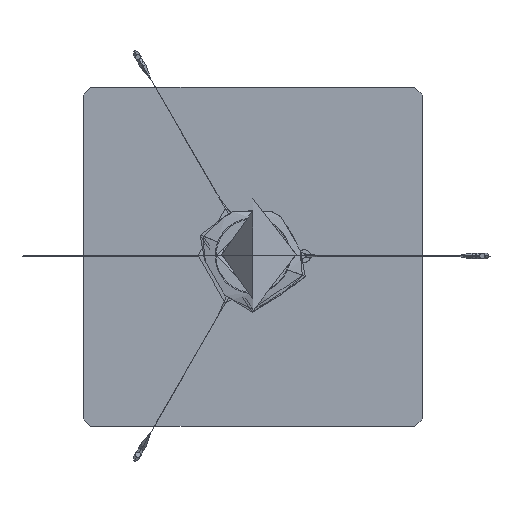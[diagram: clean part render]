
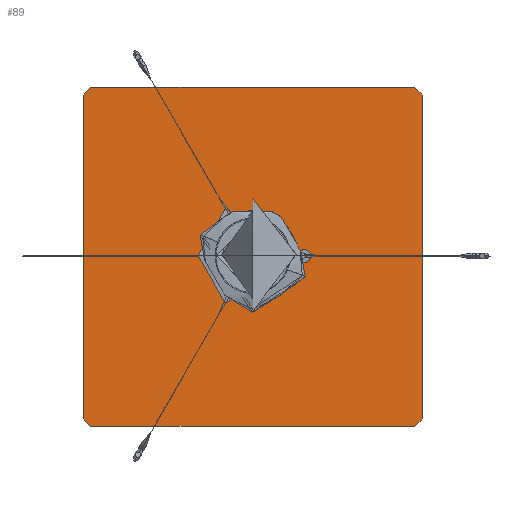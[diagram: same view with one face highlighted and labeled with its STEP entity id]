
A CAD part, top view. The second image highlights one B-rep face of the part: STEP entity #89.
In plain terms, the highlighted planar face has unit normal (0, 0, 1).
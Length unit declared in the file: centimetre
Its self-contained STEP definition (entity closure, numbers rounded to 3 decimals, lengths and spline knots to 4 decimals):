
#32=FACE_BOUND('',#593,.T.);
#89=ADVANCED_FACE('',(#340,#32),#4009,.T.);
#340=FACE_OUTER_BOUND('',#592,.T.);
#592=EDGE_LOOP('',(#928,#929,#930,#931,#932,#933,#934,#935));
#593=EDGE_LOOP('',(#936,#937));
#928=ORIENTED_EDGE('',*,*,#2173,.F.);
#929=ORIENTED_EDGE('',*,*,#2182,.F.);
#930=ORIENTED_EDGE('',*,*,#2174,.F.);
#931=ORIENTED_EDGE('',*,*,#2187,.F.);
#932=ORIENTED_EDGE('',*,*,#2175,.F.);
#933=ORIENTED_EDGE('',*,*,#2192,.F.);
#934=ORIENTED_EDGE('',*,*,#2176,.F.);
#935=ORIENTED_EDGE('',*,*,#2196,.F.);
#936=ORIENTED_EDGE('',*,*,#2362,.F.);
#937=ORIENTED_EDGE('',*,*,#2364,.F.);
#2173=EDGE_CURVE('',#3440,#3438,#2790,.T.);
#2174=EDGE_CURVE('',#3442,#3441,#2791,.T.);
#2175=EDGE_CURVE('',#3444,#3443,#2792,.T.);
#2176=EDGE_CURVE('',#3439,#3445,#2793,.T.);
#2182=EDGE_CURVE('',#3441,#3440,#3122,.T.);
#2187=EDGE_CURVE('',#3443,#3442,#3124,.T.);
#2192=EDGE_CURVE('',#3445,#3444,#3126,.T.);
#2196=EDGE_CURVE('',#3438,#3439,#3128,.T.);
#2362=EDGE_CURVE('',#3570,#3446,#3224,.T.);
#2364=EDGE_CURVE('',#3446,#3570,#3225,.T.);
#2790=B_SPLINE_CURVE_WITH_KNOTS('',1,(#7239,#7240),.UNSPECIFIED.,.F.,.F.,
(2,2),(-172.,0.),.UNSPECIFIED.);
#2791=B_SPLINE_CURVE_WITH_KNOTS('',1,(#7241,#7242),.UNSPECIFIED.,.F.,.F.,
(2,2),(-172.,0.),.UNSPECIFIED.);
#2792=B_SPLINE_CURVE_WITH_KNOTS('',1,(#7243,#7244),.UNSPECIFIED.,.F.,.F.,
(2,2),(-172.,0.),.UNSPECIFIED.);
#2793=B_SPLINE_CURVE_WITH_KNOTS('',1,(#7245,#7246),.UNSPECIFIED.,.F.,.F.,
(2,2),(-172.,0.),.UNSPECIFIED.);
#3122=(
BOUNDED_CURVE()
B_SPLINE_CURVE(2,(#7258,#7259,#7260),.UNSPECIFIED.,.F.,.F.)
B_SPLINE_CURVE_WITH_KNOTS((3,3),(0.,6.2832),.UNSPECIFIED.)
CURVE()
GEOMETRIC_REPRESENTATION_ITEM()
RATIONAL_B_SPLINE_CURVE((1.,0.707,1.))
REPRESENTATION_ITEM('')
);
#3124=(
BOUNDED_CURVE()
B_SPLINE_CURVE(2,(#7270,#7271,#7272),.UNSPECIFIED.,.F.,.F.)
B_SPLINE_CURVE_WITH_KNOTS((3,3),(0.,6.2832),.UNSPECIFIED.)
CURVE()
GEOMETRIC_REPRESENTATION_ITEM()
RATIONAL_B_SPLINE_CURVE((1.,0.707,1.))
REPRESENTATION_ITEM('')
);
#3126=(
BOUNDED_CURVE()
B_SPLINE_CURVE(2,(#7282,#7283,#7284),.UNSPECIFIED.,.F.,.F.)
B_SPLINE_CURVE_WITH_KNOTS((3,3),(0.,6.2832),.UNSPECIFIED.)
CURVE()
GEOMETRIC_REPRESENTATION_ITEM()
RATIONAL_B_SPLINE_CURVE((1.,0.707,1.))
REPRESENTATION_ITEM('')
);
#3128=(
BOUNDED_CURVE()
B_SPLINE_CURVE(2,(#7292,#7293,#7294),.UNSPECIFIED.,.F.,.F.)
B_SPLINE_CURVE_WITH_KNOTS((3,3),(0.,6.2832),.UNSPECIFIED.)
CURVE()
GEOMETRIC_REPRESENTATION_ITEM()
RATIONAL_B_SPLINE_CURVE((1.,0.707,1.))
REPRESENTATION_ITEM('')
);
#3224=(
BOUNDED_CURVE()
B_SPLINE_CURVE(2,(#8024,#8025,#8026,#8027,#8028),.UNSPECIFIED.,.F.,.F.)
B_SPLINE_CURVE_WITH_KNOTS((3,2,3),(0.,19.6346,39.2692),
 .UNSPECIFIED.)
CURVE()
GEOMETRIC_REPRESENTATION_ITEM()
RATIONAL_B_SPLINE_CURVE((1.,0.707,1.,0.707,1.))
REPRESENTATION_ITEM('')
);
#3225=(
BOUNDED_CURVE()
B_SPLINE_CURVE(2,(#8031,#8032,#8033,#8034,#8035),.UNSPECIFIED.,.F.,.F.)
B_SPLINE_CURVE_WITH_KNOTS((3,2,3),(39.2692,58.9038,78.5383),
 .UNSPECIFIED.)
CURVE()
GEOMETRIC_REPRESENTATION_ITEM()
RATIONAL_B_SPLINE_CURVE((1.,0.707,1.,0.707,1.))
REPRESENTATION_ITEM('')
);
#3438=VERTEX_POINT('',#6842);
#3439=VERTEX_POINT('',#6843);
#3440=VERTEX_POINT('',#6844);
#3441=VERTEX_POINT('',#6845);
#3442=VERTEX_POINT('',#6846);
#3443=VERTEX_POINT('',#6847);
#3444=VERTEX_POINT('',#6848);
#3445=VERTEX_POINT('',#6849);
#3446=VERTEX_POINT('',#6850);
#3570=VERTEX_POINT('',#6974);
#4009=PLANE('',#4179);
#4179=AXIS2_PLACEMENT_3D('',#4870,#4375,$);
#4375=DIRECTION('',(0.,0.,1.));
#4870=CARTESIAN_POINT('',(1205.7445,1732.5767,-419.1669));
#6842=CARTESIAN_POINT('',(1385.7545,1556.5667,-419.1669));
#6843=CARTESIAN_POINT('',(1381.7545,1552.5667,-419.1669));
#6844=CARTESIAN_POINT('',(1385.7545,1728.5667,-419.1669));
#6845=CARTESIAN_POINT('',(1381.7545,1732.5667,-419.1669));
#6846=CARTESIAN_POINT('',(1209.7545,1732.5667,-419.1669));
#6847=CARTESIAN_POINT('',(1205.7545,1728.5667,-419.1669));
#6848=CARTESIAN_POINT('',(1205.7545,1556.5667,-419.1669));
#6849=CARTESIAN_POINT('',(1209.7545,1552.5667,-419.1669));
#6850=CARTESIAN_POINT('',(1283.2547,1642.5667,-419.1669));
#6974=CARTESIAN_POINT('',(1308.2542,1642.5667,-419.1669));
#7239=CARTESIAN_POINT('',(1385.7545,1728.5667,-419.1669));
#7240=CARTESIAN_POINT('',(1385.7545,1556.5667,-419.1669));
#7241=CARTESIAN_POINT('',(1209.7545,1732.5667,-419.1669));
#7242=CARTESIAN_POINT('',(1381.7545,1732.5667,-419.1669));
#7243=CARTESIAN_POINT('',(1205.7545,1556.5667,-419.1669));
#7244=CARTESIAN_POINT('',(1205.7545,1728.5667,-419.1669));
#7245=CARTESIAN_POINT('',(1381.7545,1552.5667,-419.1669));
#7246=CARTESIAN_POINT('',(1209.7545,1552.5667,-419.1669));
#7258=CARTESIAN_POINT('',(1381.7545,1732.5667,-419.1669));
#7259=CARTESIAN_POINT('',(1385.7545,1732.5667,-419.1669));
#7260=CARTESIAN_POINT('',(1385.7545,1728.5667,-419.1669));
#7270=CARTESIAN_POINT('',(1205.7545,1728.5667,-419.1669));
#7271=CARTESIAN_POINT('',(1205.7545,1732.5667,-419.1669));
#7272=CARTESIAN_POINT('',(1209.7545,1732.5667,-419.1669));
#7282=CARTESIAN_POINT('',(1209.7545,1552.5667,-419.1669));
#7283=CARTESIAN_POINT('',(1205.7545,1552.5667,-419.1669));
#7284=CARTESIAN_POINT('',(1205.7545,1556.5667,-419.1669));
#7292=CARTESIAN_POINT('',(1385.7545,1556.5667,-419.1669));
#7293=CARTESIAN_POINT('',(1385.7545,1552.5667,-419.1669));
#7294=CARTESIAN_POINT('',(1381.7545,1552.5667,-419.1669));
#8024=CARTESIAN_POINT('',(1308.2542,1642.5667,-419.1669));
#8025=CARTESIAN_POINT('',(1308.2542,1655.0664,-419.1669));
#8026=CARTESIAN_POINT('',(1295.7545,1655.0664,-419.1669));
#8027=CARTESIAN_POINT('',(1283.2547,1655.0664,-419.1669));
#8028=CARTESIAN_POINT('',(1283.2547,1642.5667,-419.1669));
#8031=CARTESIAN_POINT('',(1283.2547,1642.5667,-419.1669));
#8032=CARTESIAN_POINT('',(1283.2547,1630.0669,-419.1669));
#8033=CARTESIAN_POINT('',(1295.7545,1630.0669,-419.1669));
#8034=CARTESIAN_POINT('',(1308.2542,1630.0669,-419.1669));
#8035=CARTESIAN_POINT('',(1308.2542,1642.5667,-419.1669));
